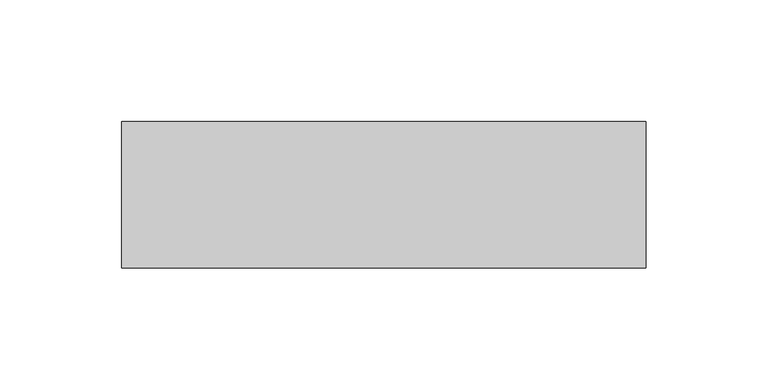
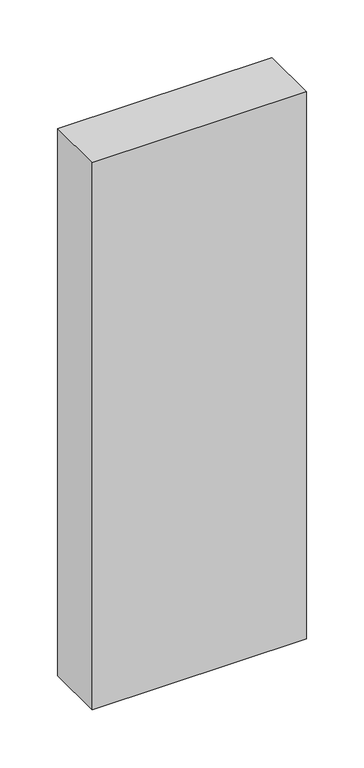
"""IFC4 building model written with IfcOpenShell, lengths in millimetres: plate geometry, Системная панель : Алюкобонд серый."""

from ifc_helpers import new_model, si_unit, origin, origin_with_axes, place, context, project, spatial, polyline, outline, extrude, source, transform, mapped, element, save


def plate_e0dc8989(model_context):
    return source(origin(), model_context, "Body", "SweptSolid", [
        extrude(outline(polyline([(107.5, -10.5), (-107.5, -10.5), (-107.5, 49.5), (107.5, 49.5), (107.5, -10.5)])), origin_with_axes(), (0.0, 0.0, 1.0), 580.0),
    ])


if __name__ == "__main__":
    model = new_model("IFC4")
    model_context = context("Model", 3, world=origin())
    ifc_project = project(units=[si_unit("LENGTHUNIT", "METRE", prefix="MILLI")], contexts=[model_context])
    site = spatial("IfcSite", under=ifc_project)
    building = spatial("IfcBuilding", under=site)
    placement = place(None, origin())
    plate_shape = plate_e0dc8989(model_context)
    element("IfcPlate", 1, ObjectType="Системная панель : Алюкобонд серый", at=placement, inside=building, context=model_context, shape_type="MappedRepresentation", body=[
        mapped(plate_shape, transform((0.0, 0.0, 0.0), x_axis=(1.0, 0.0, 0.0), y_axis=(0.0, 1.0, 0.0), z_axis=(0.0, 0.0, 1.0))),
    ])
    save(model, "model.ifc")
